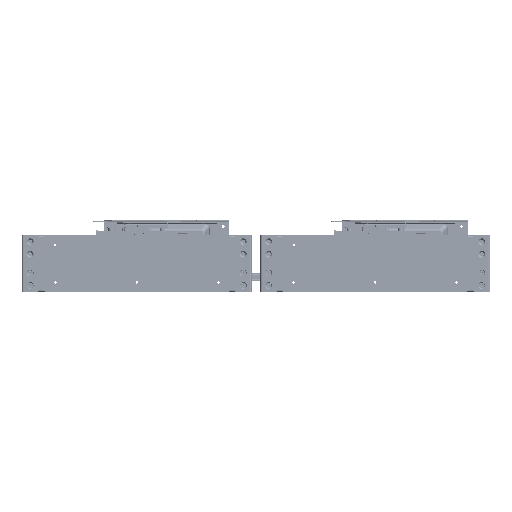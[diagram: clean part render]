
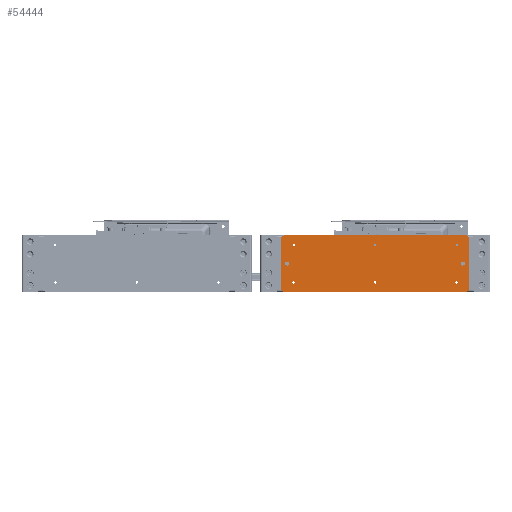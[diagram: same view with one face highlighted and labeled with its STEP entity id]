
A CAD part, top view. The second image highlights one B-rep face of the part: STEP entity #54444.
In plain terms, the highlighted planar face has unit normal (0, 0, 1) as drawn and (0, 0, -1) by its records, which use the part's own axes.
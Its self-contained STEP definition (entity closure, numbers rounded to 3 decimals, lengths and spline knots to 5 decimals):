
#7466=LINE('',#94695,#12306);
#7470=LINE('',#94704,#12310);
#7474=LINE('',#94713,#12314);
#7480=LINE('',#94737,#12320);
#12306=VECTOR('',#75525,1.);
#12310=VECTOR('',#75531,1.);
#12314=VECTOR('',#75537,1.);
#12320=VECTOR('',#75557,1.);
#25088=ORIENTED_EDGE('',*,*,#34171,.T.);
#25089=ORIENTED_EDGE('',*,*,#34172,.T.);
#25090=ORIENTED_EDGE('',*,*,#34173,.T.);
#25091=ORIENTED_EDGE('',*,*,#34174,.T.);
#25092=ORIENTED_EDGE('',*,*,#34175,.T.);
#25093=ORIENTED_EDGE('',*,*,#34176,.T.);
#25094=ORIENTED_EDGE('',*,*,#34154,.T.);
#25095=ORIENTED_EDGE('',*,*,#34156,.T.);
#25096=ORIENTED_EDGE('',*,*,#34159,.F.);
#25097=ORIENTED_EDGE('',*,*,#34177,.T.);
#25098=ORIENTED_EDGE('',*,*,#34149,.F.);
#25099=ORIENTED_EDGE('',*,*,#34178,.T.);
#25100=ORIENTED_EDGE('',*,*,#34145,.T.);
#25101=ORIENTED_EDGE('',*,*,#34179,.T.);
#25102=ORIENTED_EDGE('',*,*,#34141,.T.);
#25103=ORIENTED_EDGE('',*,*,#34180,.T.);
#34141=EDGE_CURVE('',#39604,#39605,#7466,.T.);
#34145=EDGE_CURVE('',#39608,#39609,#7470,.T.);
#34149=EDGE_CURVE('',#39612,#39613,#7474,.T.);
#34154=EDGE_CURVE('',#39617,#39617,#42229,.F.);
#34156=EDGE_CURVE('',#39619,#39619,#42231,.F.);
#34159=EDGE_CURVE('',#39622,#39623,#7480,.T.);
#34171=EDGE_CURVE('',#39630,#39630,#42242,.F.);
#34172=EDGE_CURVE('',#39631,#39631,#42243,.F.);
#34173=EDGE_CURVE('',#39632,#39632,#42244,.F.);
#34174=EDGE_CURVE('',#39633,#39633,#42245,.F.);
#34175=EDGE_CURVE('',#39634,#39634,#42246,.F.);
#34176=EDGE_CURVE('',#39635,#39635,#42247,.F.);
#34177=EDGE_CURVE('',#39622,#39613,#42248,.T.);
#34178=EDGE_CURVE('',#39612,#39608,#42249,.T.);
#34179=EDGE_CURVE('',#39609,#39604,#42250,.T.);
#34180=EDGE_CURVE('',#39605,#39623,#42251,.T.);
#39604=VERTEX_POINT('',#94696);
#39605=VERTEX_POINT('',#94697);
#39608=VERTEX_POINT('',#94705);
#39609=VERTEX_POINT('',#94706);
#39612=VERTEX_POINT('',#94714);
#39613=VERTEX_POINT('',#94715);
#39617=VERTEX_POINT('',#94725);
#39619=VERTEX_POINT('',#94730);
#39622=VERTEX_POINT('',#94736);
#39623=VERTEX_POINT('',#94738);
#39630=VERTEX_POINT('',#94759);
#39631=VERTEX_POINT('',#94761);
#39632=VERTEX_POINT('',#94763);
#39633=VERTEX_POINT('',#94765);
#39634=VERTEX_POINT('',#94767);
#39635=VERTEX_POINT('',#94769);
#42229=CIRCLE('',#62221,0.00396);
#42231=CIRCLE('',#62224,0.00396);
#42242=CIRCLE('',#62238,0.00246);
#42243=CIRCLE('',#62239,0.00246);
#42244=CIRCLE('',#62240,0.00246);
#42245=CIRCLE('',#62241,0.00246);
#42246=CIRCLE('',#62242,0.00246);
#42247=CIRCLE('',#62243,0.00246);
#42248=CIRCLE('',#62244,0.00635);
#42249=CIRCLE('',#62245,0.00635);
#42250=CIRCLE('',#62246,0.00635);
#42251=CIRCLE('',#62247,0.00635);
#45556=EDGE_LOOP('',(#25088));
#45557=EDGE_LOOP('',(#25089));
#45558=EDGE_LOOP('',(#25090));
#45559=EDGE_LOOP('',(#25091));
#45560=EDGE_LOOP('',(#25092));
#45561=EDGE_LOOP('',(#25093));
#45562=EDGE_LOOP('',(#25094));
#45563=EDGE_LOOP('',(#25095));
#45564=EDGE_LOOP('',(#25096,#25097,#25098,#25099,#25100,#25101,#25102,#25103));
#49386=FACE_BOUND('',#45556,.T.);
#49387=FACE_BOUND('',#45557,.T.);
#49388=FACE_BOUND('',#45558,.T.);
#49389=FACE_BOUND('',#45559,.T.);
#49390=FACE_BOUND('',#45560,.T.);
#49391=FACE_BOUND('',#45561,.T.);
#49392=FACE_BOUND('',#45562,.T.);
#49393=FACE_BOUND('',#45563,.T.);
#49394=FACE_BOUND('',#45564,.T.);
#51776=PLANE('',#62237);
#54444=ADVANCED_FACE('',(#49386,#49387,#49388,#49389,#49390,#49391,#49392,
#49393,#49394),#51776,.T.);
#62221=AXIS2_PLACEMENT_3D('',#94724,#75545,#75546);
#62224=AXIS2_PLACEMENT_3D('',#94729,#75551,#75552);
#62237=AXIS2_PLACEMENT_3D('',#94757,#75581,#75582);
#62238=AXIS2_PLACEMENT_3D('',#94758,#75583,#75584);
#62239=AXIS2_PLACEMENT_3D('',#94760,#75585,#75586);
#62240=AXIS2_PLACEMENT_3D('',#94762,#75587,#75588);
#62241=AXIS2_PLACEMENT_3D('',#94764,#75589,#75590);
#62242=AXIS2_PLACEMENT_3D('',#94766,#75591,#75592);
#62243=AXIS2_PLACEMENT_3D('',#94768,#75593,#75594);
#62244=AXIS2_PLACEMENT_3D('',#94770,#75595,#75596);
#62245=AXIS2_PLACEMENT_3D('',#94771,#75597,#75598);
#62246=AXIS2_PLACEMENT_3D('',#94772,#75599,#75600);
#62247=AXIS2_PLACEMENT_3D('',#94773,#75601,#75602);
#75525=DIRECTION('',(-1.,0.,0.));
#75531=DIRECTION('',(0.,-1.,0.));
#75537=DIRECTION('',(-1.,0.,0.));
#75545=DIRECTION('',(0.,0.,-1.));
#75546=DIRECTION('',(-1.,0.,0.));
#75551=DIRECTION('',(0.,0.,-1.));
#75552=DIRECTION('',(-1.,0.,0.));
#75557=DIRECTION('',(0.,-1.,0.));
#75581=DIRECTION('',(0.,0.,-1.));
#75582=DIRECTION('',(1.,0.,0.));
#75583=DIRECTION('',(0.,0.,-1.));
#75584=DIRECTION('',(-1.,0.,0.));
#75585=DIRECTION('',(0.,0.,-1.));
#75586=DIRECTION('',(-1.,0.,0.));
#75587=DIRECTION('',(0.,0.,-1.));
#75588=DIRECTION('',(-1.,0.,0.));
#75589=DIRECTION('',(0.,0.,-1.));
#75590=DIRECTION('',(-1.,0.,0.));
#75591=DIRECTION('',(0.,0.,-1.));
#75592=DIRECTION('',(-1.,0.,0.));
#75593=DIRECTION('',(0.,0.,-1.));
#75594=DIRECTION('',(-1.,0.,0.));
#75595=DIRECTION('',(0.,0.,-1.));
#75596=DIRECTION('',(-1.,0.,0.));
#75597=DIRECTION('',(0.,0.,-1.));
#75598=DIRECTION('',(-1.,0.,0.));
#75599=DIRECTION('',(0.,0.,-1.));
#75600=DIRECTION('',(-1.,0.,0.));
#75601=DIRECTION('',(0.,0.,-1.));
#75602=DIRECTION('',(-1.,0.,0.));
#94695=CARTESIAN_POINT('',(0.,-0.05715,-0.00229));
#94696=CARTESIAN_POINT('',(0.18415,-0.05715,-0.00229));
#94697=CARTESIAN_POINT('',(-0.18415,-0.05715,-0.00229));
#94704=CARTESIAN_POINT('',(0.1905,0.,-0.00229));
#94705=CARTESIAN_POINT('',(0.1905,0.0508,-0.00229));
#94706=CARTESIAN_POINT('',(0.1905,-0.0508,-0.00229));
#94713=CARTESIAN_POINT('',(0.,0.05715,-0.00229));
#94714=CARTESIAN_POINT('',(0.18415,0.05715,-0.00229));
#94715=CARTESIAN_POINT('',(-0.18415,0.05715,-0.00229));
#94724=CARTESIAN_POINT('',(-0.1778,0.,-0.00229));
#94725=CARTESIAN_POINT('',(-0.18176,0.,-0.00229));
#94729=CARTESIAN_POINT('',(0.1778,0.,-0.00229));
#94730=CARTESIAN_POINT('',(0.17384,0.,-0.00229));
#94736=CARTESIAN_POINT('',(-0.1905,0.0508,-0.00229));
#94737=CARTESIAN_POINT('',(-0.1905,0.,-0.00229));
#94738=CARTESIAN_POINT('',(-0.1905,-0.0508,-0.00229));
#94757=CARTESIAN_POINT('',(0.,0.,-0.00229));
#94758=CARTESIAN_POINT('',(-0.1651,0.0381,-0.00229));
#94759=CARTESIAN_POINT('',(-0.16756,0.0381,-0.00229));
#94760=CARTESIAN_POINT('',(0.,0.0381,-0.00229));
#94761=CARTESIAN_POINT('',(-0.00246,0.0381,-0.00229));
#94762=CARTESIAN_POINT('',(0.1651,0.0381,-0.00229));
#94763=CARTESIAN_POINT('',(0.16264,0.0381,-0.00229));
#94764=CARTESIAN_POINT('',(0.1651,-0.0381,-0.00229));
#94765=CARTESIAN_POINT('',(0.16264,-0.0381,-0.00229));
#94766=CARTESIAN_POINT('',(0.,-0.0381,-0.00229));
#94767=CARTESIAN_POINT('',(-0.00246,-0.0381,-0.00229));
#94768=CARTESIAN_POINT('',(-0.1651,-0.0381,-0.00229));
#94769=CARTESIAN_POINT('',(-0.16756,-0.0381,-0.00229));
#94770=CARTESIAN_POINT('',(-0.18415,0.0508,-0.00229));
#94771=CARTESIAN_POINT('',(0.18415,0.0508,-0.00229));
#94772=CARTESIAN_POINT('',(0.18415,-0.0508,-0.00229));
#94773=CARTESIAN_POINT('',(-0.18415,-0.0508,-0.00229));
